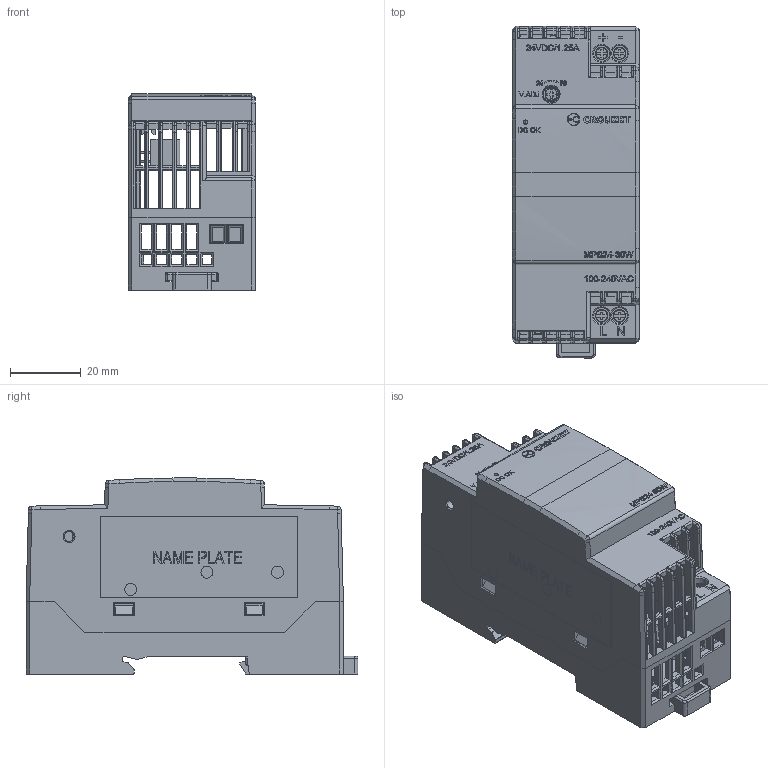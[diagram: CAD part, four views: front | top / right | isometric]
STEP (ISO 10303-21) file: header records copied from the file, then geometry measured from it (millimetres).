
FILE_DESCRIPTION (( 'STEP AP214' ), '1' );
FILE_NAME ('MPS24-30W.STEP', '2019-03-04T08:20:43', ( '' ), ( '' ), 'SwSTEP 2.0', 'SolidWorks 2017', '' );
FILE_SCHEMA (( 'AUTOMOTIVE_DESIGN' ));
Length unit declared in the file: millimetre
Products named in the file (11): MPS24-30W; CCB177; CCB176; name plate_crouzet; CT-6EMS_______; DRL30 Base pilot; MB312-508M02; Chassis_crouzet; Cover_crouzet; Label; Din clip_crouzet
Assembly tree (11 placements, depth 4):
  MPS24-30W
    DRL30 Base pilot
      Cover_crouzet
      CCB177
        MB312-508M02  x2
      CCB176
        CT-6EMS_______
    Chassis_crouzet
    Din clip_crouzet
    Label
    name plate_crouzet
Bounding box: 36.1 x 94.12 x 55.6 mm (x, y, z)
Volume: 38317.1 mm3; surface area: 47273.7 mm2
Topology: 8 solids, 11 shells, 2333 faces, 7380 edges, 5089 vertices
Faces by surface type: plane 1266, cylinder 731, torus 141, bspline 78, sphere 66, cone 51
Entity records: 92011 total; most frequent: CARTESIAN_POINT 26262, ORIENTED_EDGE 14226, DIRECTION 11465, EDGE_CURVE 7113, VERTEX_POINT 4971, VECTOR 4645, LINE 4645, AXIS2_PLACEMENT_3D 3410
